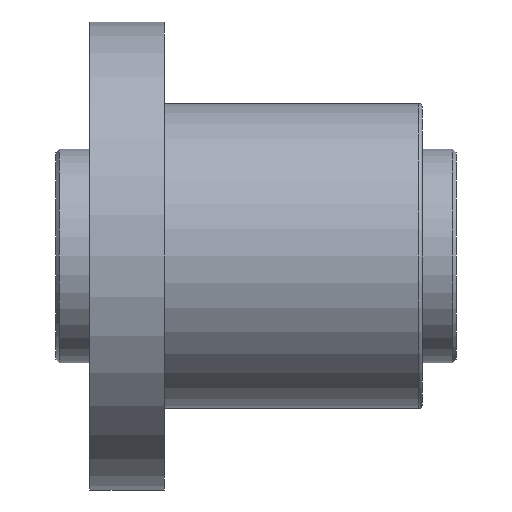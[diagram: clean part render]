
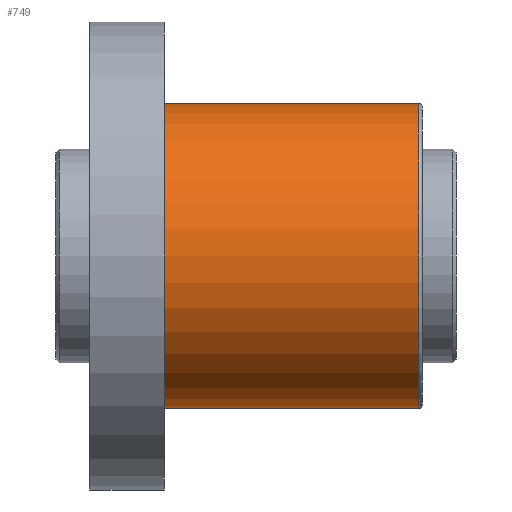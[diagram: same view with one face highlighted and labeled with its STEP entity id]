
A CAD part, front view. The second image highlights one B-rep face of the part: STEP entity #749.
In plain terms, the highlighted cylindrical face has radius 45 mm (diameter 90 mm), a partial arc.
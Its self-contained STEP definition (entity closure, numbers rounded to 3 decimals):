
#159 = DIRECTION ( 'NONE',  ( -1., 0., 0. ) ) ;
#330 = CARTESIAN_POINT ( 'NONE',  ( 22., 0., 45. ) ) ;
#469 = CARTESIAN_POINT ( 'NONE',  ( 98., 0., -45. ) ) ;
#479 = DIRECTION ( 'NONE',  ( -1., 0., 0. ) ) ;
#506 = VECTOR ( 'NONE', #2746, 1000. ) ;
#564 = ORIENTED_EDGE ( 'NONE', *, *, #2642, .T. ) ;
#573 = VERTEX_POINT ( 'NONE', #965 ) ;
#741 = AXIS2_PLACEMENT_3D ( 'NONE', #3658, #3321, #2435 ) ;
#749 = ADVANCED_FACE ( 'NONE', ( #1498 ), #3917, .T. ) ;
#768 = VERTEX_POINT ( 'NONE', #330 ) ;
#928 = EDGE_CURVE ( 'NONE', #573, #768, #1215, .T. ) ;
#965 = CARTESIAN_POINT ( 'NONE',  ( 22., 0., -45. ) ) ;
#1002 = VERTEX_POINT ( 'NONE', #3777 ) ;
#1209 = VERTEX_POINT ( 'NONE', #2477 ) ;
#1215 = CIRCLE ( 'NONE', #3754, 45. ) ;
#1366 = LINE ( 'NONE', #2984, #506 ) ;
#1498 = FACE_OUTER_BOUND ( 'NONE', #3457, .T. ) ;
#1694 = CARTESIAN_POINT ( 'NONE',  ( 22., 0., 0. ) ) ;
#1967 = LINE ( 'NONE', #469, #2977 ) ;
#1975 = CARTESIAN_POINT ( 'NONE',  ( 97., 0., 0. ) ) ;
#1980 = ORIENTED_EDGE ( 'NONE', *, *, #2677, .F. ) ;
#2435 = DIRECTION ( 'NONE',  ( 0., 0., 1. ) ) ;
#2458 = ORIENTED_EDGE ( 'NONE', *, *, #928, .F. ) ;
#2477 = CARTESIAN_POINT ( 'NONE',  ( 97., 0., -45. ) ) ;
#2642 = EDGE_CURVE ( 'NONE', #1209, #1002, #2882, .T. ) ;
#2677 = EDGE_CURVE ( 'NONE', #1209, #573, #1967, .T. ) ;
#2746 = DIRECTION ( 'NONE',  ( -1., 0., 0. ) ) ;
#2763 = ORIENTED_EDGE ( 'NONE', *, *, #2863, .T. ) ;
#2858 = DIRECTION ( 'NONE',  ( 0., 0., 1. ) ) ;
#2863 = EDGE_CURVE ( 'NONE', #1002, #768, #1366, .T. ) ;
#2882 = CIRCLE ( 'NONE', #3302, 45. ) ;
#2957 = DIRECTION ( 'NONE',  ( -1., 0., 0. ) ) ;
#2977 = VECTOR ( 'NONE', #2957, 1000. ) ;
#2984 = CARTESIAN_POINT ( 'NONE',  ( 98., 0., 45. ) ) ;
#3302 = AXIS2_PLACEMENT_3D ( 'NONE', #1975, #159, #3505 ) ;
#3321 = DIRECTION ( 'NONE',  ( -1., 0., 0. ) ) ;
#3457 = EDGE_LOOP ( 'NONE', ( #1980, #564, #2763, #2458 ) ) ;
#3505 = DIRECTION ( 'NONE',  ( 0., 0., -1. ) ) ;
#3658 = CARTESIAN_POINT ( 'NONE',  ( 98., 0., 0. ) ) ;
#3754 = AXIS2_PLACEMENT_3D ( 'NONE', #1694, #479, #2858 ) ;
#3777 = CARTESIAN_POINT ( 'NONE',  ( 97., 0., 45. ) ) ;
#3917 = CYLINDRICAL_SURFACE ( 'NONE', #741, 45. ) ;
